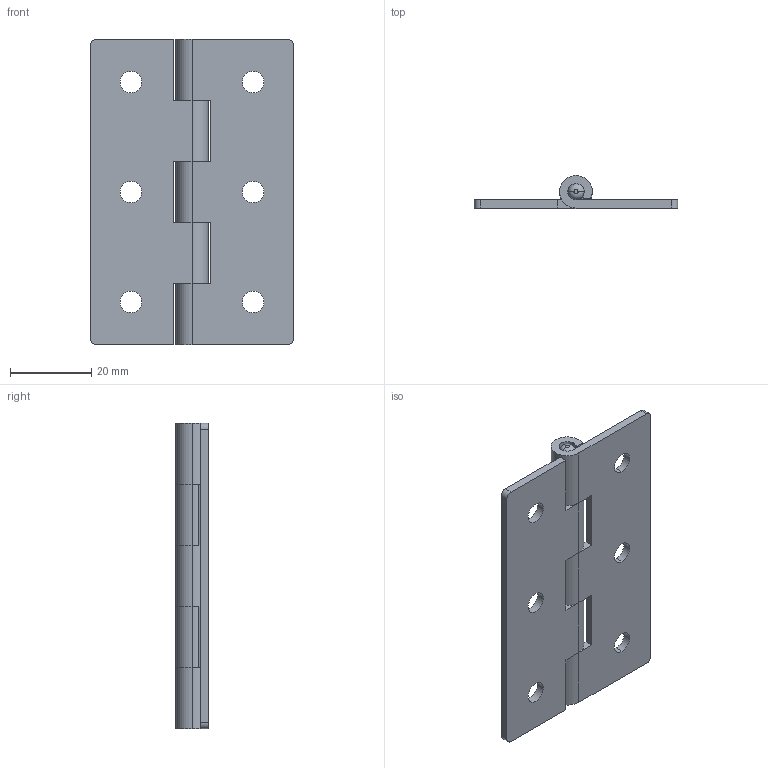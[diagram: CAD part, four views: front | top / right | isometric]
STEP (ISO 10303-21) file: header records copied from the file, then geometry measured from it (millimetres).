
FILE_DESCRIPTION (( 'STEP AP214' ), '1' );
FILE_NAME ('SK2-072-3.STEP', '2020-04-10T02:19:24', ( 'admin' ), ( 'Microsoft' ), 'SwSTEP 2.0', 'SolidWorks 2018', '' );
FILE_SCHEMA (( 'AUTOMOTIVE_DESIGN' ));
Length unit declared in the file: millimetre
Products named in the file (4): 2-072-3-F3; 2-072-3-F2; 2-072-3-F1; SK2-072-3
Assembly tree (3 placements, depth 2):
  SK2-072-3
    2-072-3-F1
    2-072-3-F2
    2-072-3-F3
Bounding box: 50 x 8 x 75 mm (x, y, z)
Volume: 9853.6 mm3; surface area: 11245.4 mm2
Topology: 3 solids, 3 shells, 198 faces, 545 edges, 362 vertices
Faces by surface type: plane 117, cylinder 48, bspline 29, torus 4
Entity records: 7737 total; most frequent: CARTESIAN_POINT 2612, ORIENTED_EDGE 1090, DIRECTION 941, EDGE_CURVE 545, VECTOR 383, LINE 383, VERTEX_POINT 362, AXIS2_PLACEMENT_3D 279
